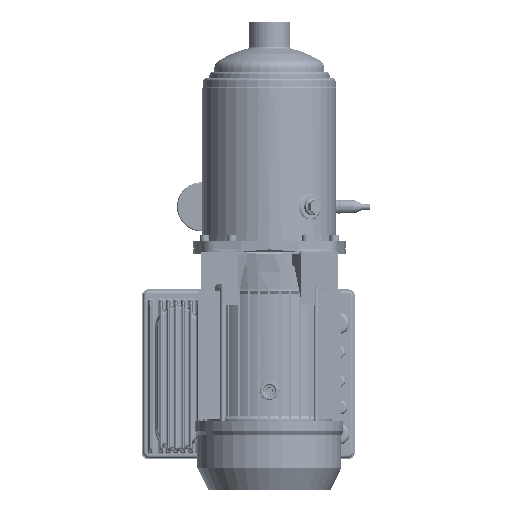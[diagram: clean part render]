
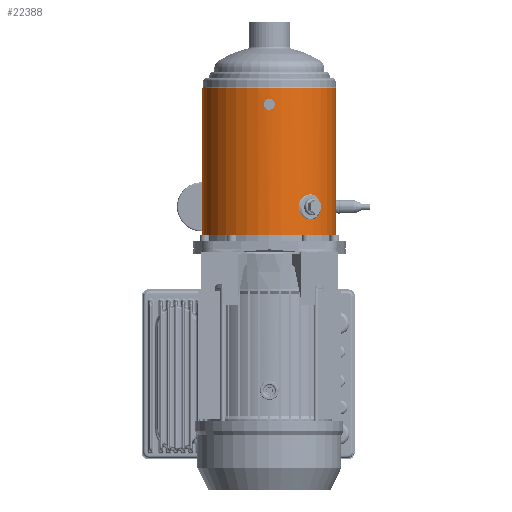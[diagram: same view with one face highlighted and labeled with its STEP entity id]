
A CAD part, front view. The second image highlights one B-rep face of the part: STEP entity #22388.
In plain terms, the highlighted cylindrical face has radius 72 mm (diameter 144 mm), a partial arc.
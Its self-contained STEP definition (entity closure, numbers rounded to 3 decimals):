
#19451=CARTESIAN_POINT('',(0.,8.4,0.));
#19452=DIRECTION('',(0.,1.,0.));
#19453=DIRECTION('',(0.,0.,-1.));
#19454=AXIS2_PLACEMENT_3D('',#19451,#19452,#19453);
#19525=DIRECTION('',(0.,1.,0.));
#19526=VECTOR('',#19525,158.614);
#19527=CARTESIAN_POINT('',(0.,8.4,-72.));
#19528=LINE('',#19527,#19526);
#19532=DIRECTION('',(0.,-1.,0.));
#19533=VECTOR('',#19532,158.614);
#19534=CARTESIAN_POINT('',(0.,167.014,72.));
#19535=LINE('',#19534,#19533);
#19539=CARTESIAN_POINT('',(-64.772,39.,
31.441));
#19540=CARTESIAN_POINT('',(-64.772,37.551,
31.441));
#19541=CARTESIAN_POINT('',(-64.553,34.753,
31.901));
#19542=CARTESIAN_POINT('',(-63.436,30.588,
34.11));
#19543=CARTESIAN_POINT('',(-61.387,27.256,
37.728));
#19544=CARTESIAN_POINT('',(-58.476,25.423,
42.129));
#19545=CARTESIAN_POINT('',(-55.02,25.424,
46.553));
#19546=CARTESIAN_POINT('',(-51.453,27.26,
50.441));
#19547=CARTESIAN_POINT('',(-48.44,30.593,
53.303));
#19548=CARTESIAN_POINT('',(-46.568,34.761,
54.919));
#19549=CARTESIAN_POINT('',(-46.177,37.555,
55.242));
#19550=CARTESIAN_POINT('',(-46.177,39.,
55.242));
#19555=CARTESIAN_POINT('',(-46.177,39.,
55.242));
#19556=CARTESIAN_POINT('',(-46.177,40.449,
55.242));
#19557=CARTESIAN_POINT('',(-46.57,43.247,
54.918));
#19558=CARTESIAN_POINT('',(-48.443,47.412,
53.3));
#19559=CARTESIAN_POINT('',(-51.458,50.744,
50.436));
#19560=CARTESIAN_POINT('',(-55.025,52.577,
46.547));
#19561=CARTESIAN_POINT('',(-58.48,52.576,42.123));
#19562=CARTESIAN_POINT('',(-61.39,50.74,
37.722));
#19563=CARTESIAN_POINT('',(-63.438,47.407,
34.106));
#19564=CARTESIAN_POINT('',(-64.554,43.239,
31.898));
#19565=CARTESIAN_POINT('',(-64.772,40.445,
31.441));
#19566=CARTESIAN_POINT('',(-64.772,39.,
31.441));
#19571=CARTESIAN_POINT('',(-72.,155.4,0.));
#19572=CARTESIAN_POINT('',(-72.,155.4,-0.812));
#19573=CARTESIAN_POINT('',(-71.974,155.098,
-2.312));
#19574=CARTESIAN_POINT('',(-71.875,153.761,
-4.353));
#19575=CARTESIAN_POINT('',(-71.777,151.758,
-5.685));
#19576=CARTESIAN_POINT('',(-71.736,149.399,
-6.158));
#19577=CARTESIAN_POINT('',(-71.777,147.039,
-5.684));
#19578=CARTESIAN_POINT('',(-71.875,145.037,
-4.352));
#19579=CARTESIAN_POINT('',(-71.974,143.701,
-2.309));
#19580=CARTESIAN_POINT('',(-72.,143.4,-0.811));
#19581=CARTESIAN_POINT('',(-72.,143.4,0.));
#19586=CARTESIAN_POINT('',(-72.,143.4,0.));
#19587=CARTESIAN_POINT('',(-72.,143.4,0.812));
#19588=CARTESIAN_POINT('',(-71.974,143.702,
2.312));
#19589=CARTESIAN_POINT('',(-71.875,145.039,
4.353));
#19590=CARTESIAN_POINT('',(-71.777,147.042,
5.685));
#19591=CARTESIAN_POINT('',(-71.736,149.401,
6.158));
#19592=CARTESIAN_POINT('',(-71.777,151.761,
5.684));
#19593=CARTESIAN_POINT('',(-71.875,153.763,
4.352));
#19594=CARTESIAN_POINT('',(-71.974,155.099,
2.309));
#19595=CARTESIAN_POINT('',(-72.,155.4,0.811));
#19596=CARTESIAN_POINT('',(-72.,155.4,0.));
#19609=CARTESIAN_POINT('',(0.,167.014,0.));
#19610=DIRECTION('',(0.,-1.,0.));
#19611=DIRECTION('',(0.,0.,1.));
#19612=AXIS2_PLACEMENT_3D('',#19609,#19610,#19611);
#21631=CARTESIAN_POINT('',(0.,8.4,72.));
#21632=CARTESIAN_POINT('',(0.,8.4,-72.));
#21633=VERTEX_POINT('',#21631);
#21634=VERTEX_POINT('',#21632);
#21635=CARTESIAN_POINT('',(0.,167.014,-72.));
#21636=VERTEX_POINT('',#21635);
#21637=CARTESIAN_POINT('',(0.,167.014,72.));
#21638=VERTEX_POINT('',#21637);
#21643=VERTEX_POINT('',#19539);
#21644=VERTEX_POINT('',#19550);
#21645=VERTEX_POINT('',#19571);
#21646=VERTEX_POINT('',#19581);
#22364=CARTESIAN_POINT('',(0.,170.187,0.));
#22365=DIRECTION('',(0.,-1.,0.));
#22366=DIRECTION('',(0.,0.,1.));
#22367=AXIS2_PLACEMENT_3D('',#22364,#22365,#22366);
#22368=CYLINDRICAL_SURFACE('',#22367,72.);
#22369=ORIENTED_EDGE('',*,*,#22342,.T.);
#22371=ORIENTED_EDGE('',*,*,#22370,.F.);
#22372=ORIENTED_EDGE('',*,*,#22345,.T.);
#22373=ORIENTED_EDGE('',*,*,#22332,.F.);
#22374=EDGE_LOOP('',(#22369,#22371,#22372,#22373));
#22375=FACE_OUTER_BOUND('',#22374,.F.);
#22377=ORIENTED_EDGE('',*,*,#22376,.T.);
#22379=ORIENTED_EDGE('',*,*,#22378,.T.);
#22380=EDGE_LOOP('',(#22377,#22379));
#22381=FACE_BOUND('',#22380,.F.);
#22383=ORIENTED_EDGE('',*,*,#22382,.T.);
#22385=ORIENTED_EDGE('',*,*,#22384,.T.);
#22386=EDGE_LOOP('',(#22383,#22385));
#22387=FACE_BOUND('',#22386,.F.);
#19455=CIRCLE('',#19454,72.);
#19551=B_SPLINE_CURVE_WITH_KNOTS('',3,(#19539,#19540,#19541,#19542,#19543,
#19544,#19545,#19546,#19547,#19548,#19549,#19550),.UNSPECIFIED.,.F.,.F.,(4,1,1,
1,1,1,1,1,1,4),(0.,0.111,0.222,0.333,
0.444,0.556,0.667,0.778,
0.889,1.),.UNSPECIFIED.);
#19567=B_SPLINE_CURVE_WITH_KNOTS('',3,(#19555,#19556,#19557,#19558,#19559,
#19560,#19561,#19562,#19563,#19564,#19565,#19566),.UNSPECIFIED.,.F.,.F.,(4,1,1,
1,1,1,1,1,1,4),(0.,0.111,0.222,0.333,
0.444,0.556,0.667,0.778,
0.889,1.),.UNSPECIFIED.);
#19582=B_SPLINE_CURVE_WITH_KNOTS('',3,(#19571,#19572,#19573,#19574,#19575,
#19576,#19577,#19578,#19579,#19580,#19581),.UNSPECIFIED.,.F.,.F.,(4,1,1,1,1,1,1,
1,4),(0.,0.125,0.25,0.375,0.5,0.625,0.75,0.875,1.),
.UNSPECIFIED.);
#19597=B_SPLINE_CURVE_WITH_KNOTS('',3,(#19586,#19587,#19588,#19589,#19590,
#19591,#19592,#19593,#19594,#19595,#19596),.UNSPECIFIED.,.F.,.F.,(4,1,1,1,1,1,1,
1,4),(0.,0.125,0.25,0.375,0.5,0.625,0.75,0.875,1.),
.UNSPECIFIED.);
#19613=CIRCLE('',#19612,72.);
#22332=EDGE_CURVE('',#21634,#21633,#19455,.T.);
#22342=EDGE_CURVE('',#21634,#21636,#19528,.T.);
#22345=EDGE_CURVE('',#21638,#21633,#19535,.T.);
#22370=EDGE_CURVE('',#21638,#21636,#19613,.T.);
#22376=EDGE_CURVE('',#21643,#21644,#19551,.T.);
#22378=EDGE_CURVE('',#21644,#21643,#19567,.T.);
#22382=EDGE_CURVE('',#21645,#21646,#19582,.T.);
#22384=EDGE_CURVE('',#21646,#21645,#19597,.T.);
#22388=ADVANCED_FACE('',(#22375,#22381,#22387),#22368,.T.);
